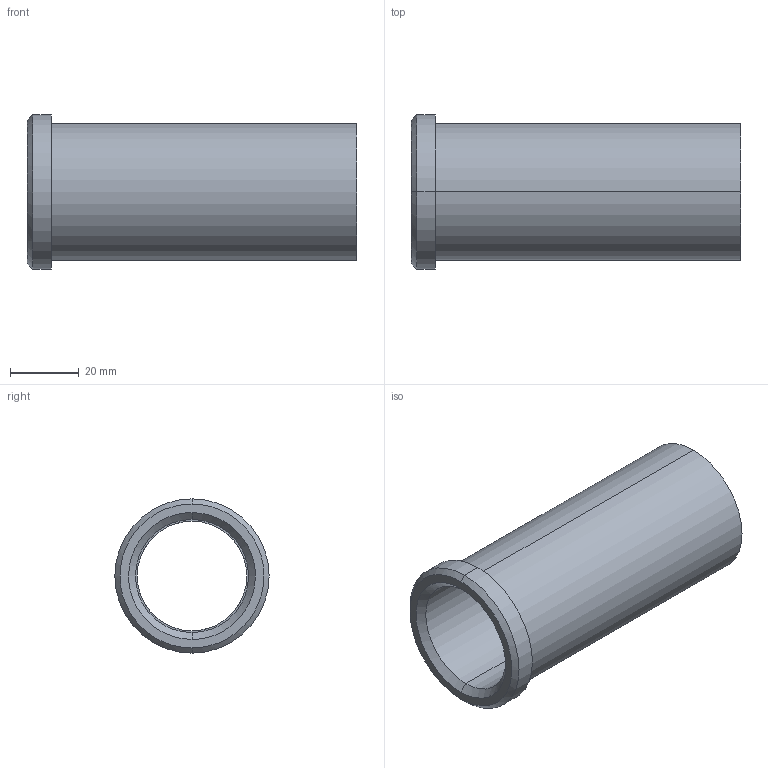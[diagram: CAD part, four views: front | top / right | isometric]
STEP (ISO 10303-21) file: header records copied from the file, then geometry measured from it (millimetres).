
FILE_DESCRIPTION(('CATIA V5 STEP Exchange'),'2;1');
FILE_NAME('C:\Users\Utente\Desktop\IO LAVORO\3D X SITO CF\X SITO\PLASTICA\353\353-32X96.stp','2021-05-12T18:52:53+00:00',('none'),('none'),'CATIA Version 5 Release 20 GA (IN-10)','CATIA V5 STEP AP203','none');
FILE_SCHEMA(('CONFIG_CONTROL_DESIGN'));
Length unit declared in the file: millimetre
Products named in the file (1): 353-32X96
Bounding box: 96 x 45 x 45 mm (x, y, z)
Volume: 43672.4 mm3; surface area: 23169.6 mm2
Topology: 1 solids, 1 shells, 18 faces, 58 edges, 44 vertices
Faces by surface type: cylinder 8, plane 4, cone 4, torus 2
Entity records: 840 total; most frequent: CARTESIAN_POINT 289, ORIENTED_EDGE 116, DIRECTION 82, EDGE_CURVE 58, AXIS2_PLACEMENT_3D 53, VERTEX_POINT 44, CIRCLE 34, EDGE_LOOP 22
